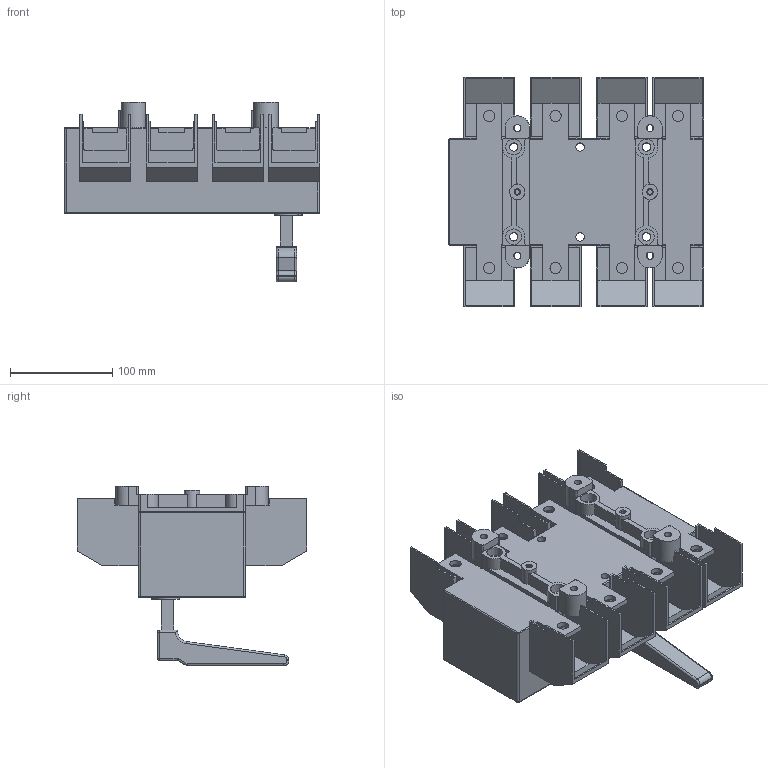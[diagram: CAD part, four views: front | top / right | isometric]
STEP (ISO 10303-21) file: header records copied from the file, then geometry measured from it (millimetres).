
FILE_DESCRIPTION(/* description */ (''),/* implementation_level */ '2;1');
FILE_NAME(/* name */ 'RA630 P3 N-R.stp',/* time_stamp */ '2021-08-18T14:52:55+02:00',/* author */ (''),/* organization */ (''),/* preprocessor_version */ 'ST-DEVELOPER v18.1',/* originating_system */ 'SIEMENS PLM Software NX 1965',/* authorisation */ '');
FILE_SCHEMA (('AUTOMOTIVE_DESIGN { 1 0 10303 214 3 1 1 1 }'));
Length unit declared in the file: millimetre
Products named in the file (1): RA630 P3 N-R
Bounding box: 250 x 225 x 176 mm (x, y, z)
Volume: 2487201.9 mm3; surface area: 346086.9 mm2
Topology: 1 solids, 1 shells, 480 faces, 1385 edges, 899 vertices
Faces by surface type: plane 329, cylinder 129, bspline 8, torus 8, sphere 6
Full cylindrical faces by diameter (mm): 4.8 x2, 6.2 x2, 7 x4, 8.2 x6, 11 x8, 14 x4, 15 x2, 15.5 x4
Entity records: 15559 total; most frequent: CARTESIAN_POINT 2857, ORIENTED_EDGE 2662, DIRECTION 2583, EDGE_CURVE 1331, LINE 1017, VECTOR 1017, VERTEX_POINT 880, AXIS2_PLACEMENT_3D 783
